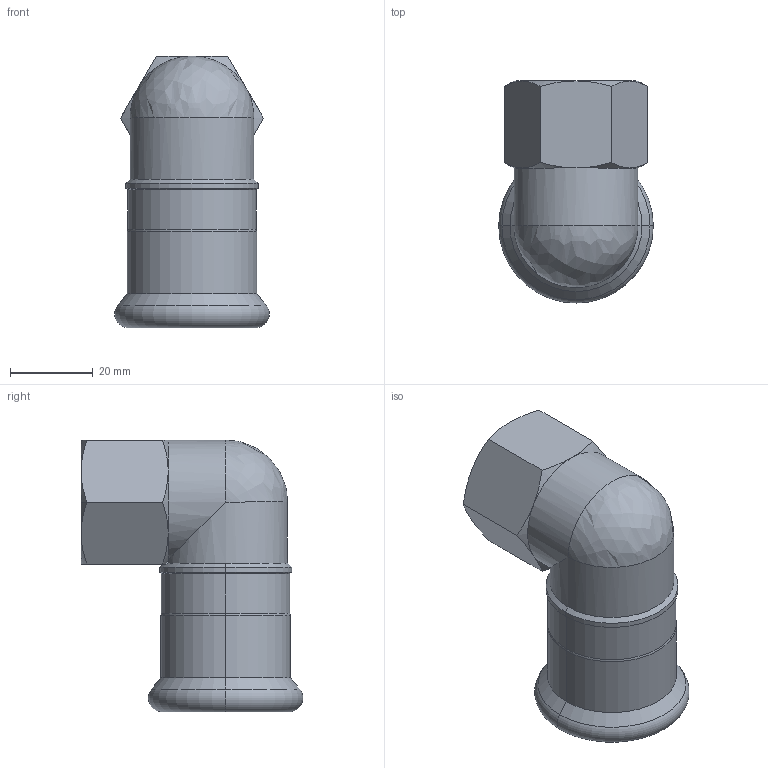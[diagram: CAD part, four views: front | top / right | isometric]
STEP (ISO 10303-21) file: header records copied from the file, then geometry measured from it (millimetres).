
FILE_DESCRIPTION(('Creo Elements/Direct Modeling STEP Export'),'2;1');
FILE_NAME('R2709 28xRp3-4.stp','2019-09-25T 8:26:15',(''),(''),'PTC Creo Elements/Direct Modeling STEP processor for AP214 (Solid Model)','PTC Creo Elements/Direct Modeling 19.0C 15-Aug-2015 (C) Parametric Technology GmbH','');
FILE_SCHEMA(('AUTOMOTIVE_DESIGN { 1 0 10303 214 1 1 1 1 }'));
Length unit declared in the file: millimetre
Products named in the file (1): R2709_28xRp3-4
Bounding box: 37.45 x 53.73 x 65.8 mm (x, y, z)
Volume: 21836.6 mm3; surface area: 16875.4 mm2
Topology: 1 solids, 1 shells, 110 faces, 271 edges, 165 vertices
Faces by surface type: plane 43, cylinder 33, cone 26, torus 6, bspline 2
Entity records: 4308 total; most frequent: CARTESIAN_POINT 1892, ORIENTED_EDGE 534, DIRECTION 432, EDGE_CURVE 267, VERTEX_POINT 165, AXIS2_PLACEMENT_3D 153, VECTOR 126, LINE 126
